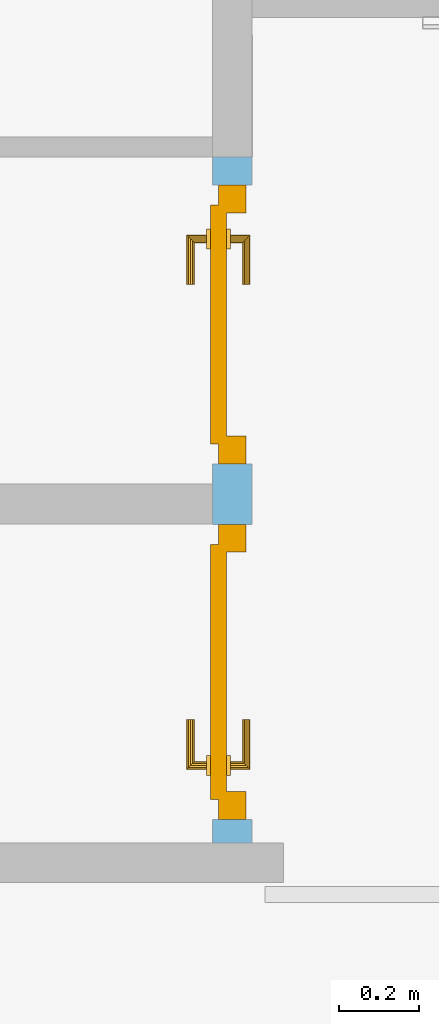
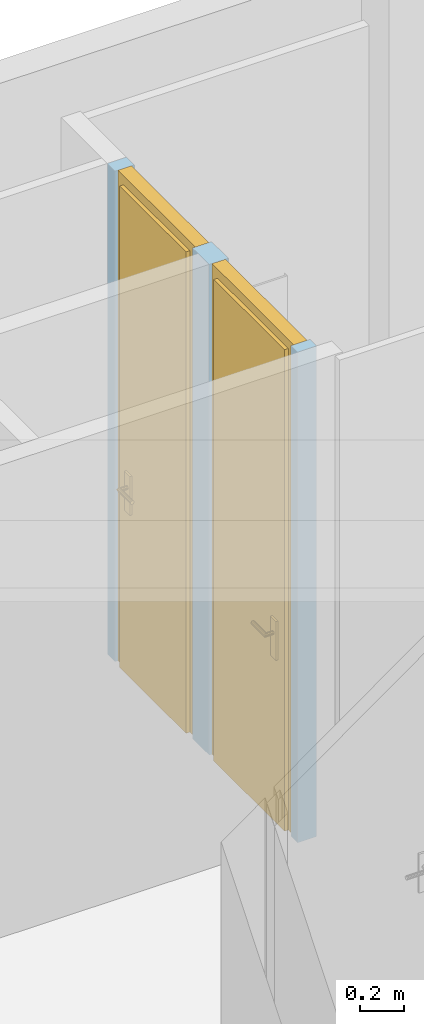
"""IFC4 building model written with IfcOpenShell, lengths in metres."""

from ifc_helpers import new_model, entity, si_unit, converted_unit, derived_unit, frame, origin, origin_with_axes, place, context, subcontext, project, spatial, polyline, outline, extrude, faceted_brep, source, transform, mapped, material, layer, layer_set, layer_usage, element, fill, save


model = new_model("IFC4")

# Units and contexts
model_context = context("Model", 3, precision=1e-05, world=origin())
body_context = subcontext(model_context, "Body", "Model", "MODEL_VIEW")
ifc_project = project(units=[si_unit("LENGTHUNIT", "METRE"), si_unit("AREAUNIT", "SQUARE_METRE"), si_unit("VOLUMEUNIT", "CUBIC_METRE"), si_unit("MASSUNIT", "GRAM", prefix="KILO"), converted_unit("PLANEANGLEUNIT", "DEGREE", entity("IfcPlaneAngleMeasure", 0.0174532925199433), si_unit("PLANEANGLEUNIT", "RADIAN"), dimensions=[0, 0, 0, 0, 0, 0, 0]), derived_unit("THERMALTRANSMITTANCEUNIT", [(si_unit("POWERUNIT", "WATT"), 1), (si_unit("THERMODYNAMICTEMPERATUREUNIT", "KELVIN"), -1), (si_unit("LENGTHUNIT", "METRE"), -2)]), derived_unit("VOLUMETRICFLOWRATEUNIT", [(si_unit("LENGTHUNIT", "METRE"), 3), (converted_unit("TIMEUNIT", "hour", entity("IfcTimeMeasure", 3600.0), si_unit("TIMEUNIT", "SECOND"), dimensions=[0, 0, 1, 0, 0, 0, 0]), -1), (si_unit("LENGTHUNIT", "METRE"), -1)])], contexts=[model_context])

# Building, storeys
building_placement = place(None, origin())
building = spatial("IfcBuilding", under=ifc_project, at=building_placement, Name="HABITATGE PLURIFAMILIAR", CompositionType="ELEMENT")
storey_1_placement = place(building_placement, frame((0.0, 0.0, 9.26)))
storey_1 = spatial("IfcBuildingStorey", under=building, at=storey_1_placement, Name="PLANTA SEGONA", CompositionType="ELEMENT", Elevation=9.26)
storey_2_placement = place(storey_1_placement, frame((0.0, 0.0, 6.25)))
storey_2 = spatial("IfcBuildingStorey", under=storey_1, at=storey_2_placement, Name="NOU", CompositionType="PARTIAL")

# Wall, openings, doors
ifc_material = material()
ifc_layer = layer(ifc_material, 0.1)
ifc_layer_set = layer_set([ifc_layer])
ifc_layer_usage = layer_usage(ifc_layer_set, "AXIS2", "POSITIVE", 0.0)
wall_placement = place(storey_2_placement, frame((408.986984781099, 25.9294598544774, -6.35), z_axis=(0.0, 0.0, 1.0), x_axis=(0.0, 1.0, 0.0)))
wall = element("IfcWall", 1, at=wall_placement, inside=storey_2, material=ifc_layer_usage, Name="Evans P2", context=body_context, shape_type="SweptSolid", body=[
    extrude(outline(polyline([(0.0, -0.1), (1.71999999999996, -0.1), (1.71999999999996, 0.0), (0.899999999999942, 0.0), (0.799999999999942, 0.0), (0.0, 0.0), (0.0, -0.1)])), frame((0.0, 0.1, 0.0), z_axis=(0.0, 0.0, 1.0), x_axis=(1.0, 0.0, 0.0)), (0.0, 0.0, 1.0), 2.71),
])
opening_1_placement = place(wall_placement, frame((1.65, 0.1, 0.0), z_axis=(0.0, -1.0, 0.0), x_axis=(0.0, 0.0, 1.0)))
opening_1 = element("IfcOpeningElement", 2, at=opening_1_placement, cuts=wall, Name="Vano puerta", ObjectType="Opening", context=body_context, shape_type="SweptSolid", body=[
    extrude(outline(polyline([(2.71, 0.700000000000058), (2.71, 0.0), (0.0, 0.0), (0.0, 0.700000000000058), (2.71, 0.700000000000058)])), origin_with_axes(), (0.0, 0.0, 1.0), 0.1),
])
opening_2_placement = place(wall_placement, frame((0.798973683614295, 0.1, 0.0), z_axis=(0.0, -1.0, 0.0), x_axis=(0.0, 0.0, 1.0)))
opening_2 = element("IfcOpeningElement", 3, at=opening_2_placement, cuts=wall, Name="Vano puerta", ObjectType="Opening", context=body_context, shape_type="SweptSolid", body=[
    extrude(outline(polyline([(2.71, 0.74), (2.71, 0.0), (0.0, 0.0), (0.0, 0.74), (2.71, 0.74)])), origin_with_axes(), (0.0, 0.0, 1.0), 0.1),
])
shared_shape_1 = source(origin_with_axes(), body_context, "Body", "Brep", [
    faceted_brep([(0.700000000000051, 0.0700000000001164, 2.71), (0.630000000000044, 0.0700000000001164, 2.71), (0.630000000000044, 0.0700000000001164, 0.0), (0.700000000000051, 0.0700000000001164, 0.0), (0.700000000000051, 0.0, 0.0), (0.630000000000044, 0.0, 0.0), (0.630000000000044, 0.0, 2.71), (0.700000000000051, 0.0, 2.71)], [[[0, 1, 2, 3]], [[4, 5, 6, 7]], [[3, 4, 7, 0]], [[2, 5, 4, 3]], [[1, 6, 5, 2]], [[0, 7, 6, 1]]], orient=[[False], [False], [False], [False], [False], [False]]),
    faceted_brep([(0.07, 0.0700000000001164, 2.71), (0.0, 0.0700000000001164, 2.71), (0.0, 0.0700000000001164, 0.0), (0.07, 0.0700000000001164, 0.0), (0.07, 0.0, 0.0), (0.0, 0.0, 0.0), (0.0, 0.0, 2.71), (0.07, 0.0, 2.71)], [[[0, 1, 2, 3]], [[4, 5, 6, 7]], [[3, 4, 7, 0]], [[2, 5, 4, 3]], [[1, 6, 5, 2]], [[0, 7, 6, 1]]], orient=[[False], [False], [False], [False], [False], [False]]),
    faceted_brep([(0.630000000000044, 0.0700000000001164, 2.71), (0.07, 0.0700000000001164, 2.71), (0.07, 0.0700000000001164, 2.64), (0.630000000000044, 0.0700000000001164, 2.64), (0.630000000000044, 0.0, 2.64), (0.07, 0.0, 2.64), (0.07, 0.0, 2.71), (0.630000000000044, 0.0, 2.71)], [[[0, 1, 2, 3]], [[4, 5, 6, 7]], [[3, 4, 7, 0]], [[2, 5, 4, 3]], [[1, 6, 5, 2]], [[0, 7, 6, 1]]], orient=[[False], [False], [False], [False], [False], [False]]),
    faceted_brep([(0.650000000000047, 0.0900000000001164, 2.66), (0.0499999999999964, 0.0900000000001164, 2.66), (0.0499999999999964, 0.0900000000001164, 0.0), (0.650000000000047, 0.0900000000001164, 0.0), (0.650000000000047, 0.0500000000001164, 0.0), (0.0499999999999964, 0.0500000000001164, 0.0), (0.0499999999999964, 0.0500000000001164, 2.66), (0.650000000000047, 0.0500000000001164, 2.66)], [[[0, 1, 2, 3]], [[4, 5, 6, 7]], [[3, 4, 7, 0]], [[2, 5, 4, 3]], [[1, 6, 5, 2]], [[0, 7, 6, 1]]], orient=[[False], [False], [False], [False], [False], [False]]),
    faceted_brep([(0.590000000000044, 0.0500000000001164, 1.125), (0.540000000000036, 0.0500000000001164, 1.125), (0.540000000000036, 0.0500000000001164, 0.91), (0.590000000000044, 0.0500000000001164, 0.91), (0.59000000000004, 0.0400000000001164, 0.91), (0.540000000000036, 0.0400000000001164, 0.91), (0.540000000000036, 0.0400000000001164, 1.125), (0.59000000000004, 0.0400000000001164, 1.125)], [[[0, 1, 2, 3]], [[4, 5, 6, 7]], [[3, 4, 7, 0]], [[2, 5, 4, 3]], [[1, 6, 5, 2]], [[0, 7, 6, 1]]], orient=[[False], [False], [False], [False], [False], [False]]),
    faceted_brep([(0.56500000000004, 0.0400000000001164, 1.06), (0.56000000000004, 0.0400000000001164, 1.05866025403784), (0.556339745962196, 0.0400000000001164, 1.055), (0.55500000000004, 0.0400000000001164, 1.05), (0.556339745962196, 0.0400000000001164, 1.045), (0.56000000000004, 0.0400000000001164, 1.04133974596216), (0.56500000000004, 0.0400000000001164, 1.04), (0.57000000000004, 0.0400000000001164, 1.04133974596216), (0.573660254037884, 0.0400000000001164, 1.045), (0.57500000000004, 0.0400000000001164, 1.05), (0.573660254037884, 0.0400000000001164, 1.055), (0.57000000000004, 0.0400000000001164, 1.05866025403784), (0.57000000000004, -0.00499999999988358, 1.05866025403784), (0.56500000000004, 0.0, 1.06), (0.573660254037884, -0.00866025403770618, 1.055), (0.57500000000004, -0.00999999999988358, 1.05), (0.573660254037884, -0.00866025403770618, 1.045), (0.57000000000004, -0.00499999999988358, 1.04133974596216), (0.56500000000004, 0.0, 1.04), (0.56000000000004, 0.00500000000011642, 1.04133974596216), (0.556339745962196, 0.00866025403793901, 1.045), (0.55500000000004, 0.0100000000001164, 1.05), (0.556339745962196, 0.00866025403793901, 1.055), (0.56000000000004, 0.00500000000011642, 1.05866025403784), (0.450000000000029, 0.0, 1.06), (0.450000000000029, -0.00499999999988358, 1.05866025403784), (0.450000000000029, -0.00866025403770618, 1.055), (0.450000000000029, -0.00999999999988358, 1.05), (0.450000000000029, -0.00866025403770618, 1.045), (0.450000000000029, -0.00499999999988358, 1.04133974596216), (0.450000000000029, 0.0, 1.04), (0.450000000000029, 0.00500000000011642, 1.04133974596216), (0.450000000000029, 0.00866025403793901, 1.045), (0.450000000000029, 0.0100000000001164, 1.05), (0.450000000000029, 0.00866025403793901, 1.055), (0.450000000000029, 0.00500000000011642, 1.05866025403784)], [[[0, 1, 2, 3, 4, 5, 6, 7, 8, 9, 10, 11]], [[0, 11, 12, 13]], [[11, 10, 14, 12]], [[10, 9, 15, 14]], [[9, 8, 16, 15]], [[8, 7, 17, 16]], [[7, 6, 18, 17]], [[6, 5, 19, 18]], [[5, 4, 20, 19]], [[4, 3, 21, 20]], [[3, 2, 22, 21]], [[2, 1, 23, 22]], [[1, 0, 13, 23]], [[24, 25, 26, 27, 28, 29, 30, 31, 32, 33, 34, 35]], [[13, 12, 25, 24]], [[12, 14, 26, 25]], [[14, 15, 27, 26]], [[15, 16, 28, 27]], [[16, 17, 29, 28]], [[17, 18, 30, 29]], [[18, 19, 31, 30]], [[19, 20, 32, 31]], [[20, 21, 33, 32]], [[21, 22, 34, 33]], [[22, 23, 35, 34]], [[23, 13, 24, 35]]], orient=[[False], [False], [False], [False], [False], [False], [False], [False], [False], [False], [False], [False], [False], [False], [False], [False], [False], [False], [False], [False], [False], [False], [False], [False], [False], [False]]),
    faceted_brep([(0.590000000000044, 0.0900000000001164, 1.125), (0.590000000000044, 0.0900000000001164, 0.91), (0.540000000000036, 0.0900000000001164, 0.91), (0.540000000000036, 0.0900000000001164, 1.125), (0.590000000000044, 0.100000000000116, 0.91), (0.590000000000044, 0.100000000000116, 1.125), (0.540000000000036, 0.100000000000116, 1.125), (0.540000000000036, 0.100000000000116, 0.91)], [[[0, 1, 2, 3]], [[4, 5, 6, 7]], [[1, 0, 5, 4]], [[2, 1, 4, 7]], [[3, 2, 7, 6]], [[0, 3, 6, 5]]], orient=[[False], [False], [False], [False], [False], [False]]),
    faceted_brep([(0.56500000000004, 0.100000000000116, 1.06), (0.57000000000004, 0.100000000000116, 1.05866025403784), (0.573660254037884, 0.100000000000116, 1.055), (0.57500000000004, 0.100000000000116, 1.05), (0.573660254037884, 0.100000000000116, 1.045), (0.57000000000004, 0.100000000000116, 1.04133974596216), (0.56500000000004, 0.100000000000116, 1.04), (0.56000000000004, 0.100000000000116, 1.04133974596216), (0.556339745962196, 0.100000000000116, 1.045), (0.55500000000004, 0.100000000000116, 1.05), (0.556339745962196, 0.100000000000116, 1.055), (0.56000000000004, 0.100000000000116, 1.05866025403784), (0.56500000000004, 0.140000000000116, 1.06), (0.57000000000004, 0.145000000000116, 1.05866025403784), (0.573660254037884, 0.148660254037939, 1.055), (0.57500000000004, 0.150000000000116, 1.05), (0.573660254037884, 0.148660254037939, 1.045), (0.57000000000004, 0.145000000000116, 1.04133974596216), (0.56500000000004, 0.140000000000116, 1.04), (0.56000000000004, 0.135000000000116, 1.04133974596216), (0.556339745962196, 0.131339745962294, 1.045), (0.55500000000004, 0.130000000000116, 1.05), (0.556339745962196, 0.131339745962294, 1.055), (0.56000000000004, 0.135000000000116, 1.05866025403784), (0.450000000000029, 0.140000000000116, 1.06), (0.450000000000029, 0.135000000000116, 1.05866025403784), (0.450000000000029, 0.131339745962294, 1.055), (0.450000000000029, 0.130000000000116, 1.05), (0.450000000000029, 0.131339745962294, 1.045), (0.450000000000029, 0.135000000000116, 1.04133974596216), (0.450000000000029, 0.140000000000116, 1.04), (0.450000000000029, 0.145000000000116, 1.04133974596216), (0.450000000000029, 0.148660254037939, 1.045), (0.450000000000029, 0.150000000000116, 1.05), (0.450000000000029, 0.148660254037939, 1.055), (0.450000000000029, 0.145000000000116, 1.05866025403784)], [[[0, 1, 2, 3, 4, 5, 6, 7, 8, 9, 10, 11]], [[0, 12, 13, 1]], [[1, 13, 14, 2]], [[2, 14, 15, 3]], [[3, 15, 16, 4]], [[4, 16, 17, 5]], [[5, 17, 18, 6]], [[6, 18, 19, 7]], [[7, 19, 20, 8]], [[8, 20, 21, 9]], [[9, 21, 22, 10]], [[10, 22, 23, 11]], [[11, 23, 12, 0]], [[24, 25, 26, 27, 28, 29, 30, 31, 32, 33, 34, 35]], [[12, 24, 35, 13]], [[13, 35, 34, 14]], [[14, 34, 33, 15]], [[15, 33, 32, 16]], [[16, 32, 31, 17]], [[17, 31, 30, 18]], [[18, 30, 29, 19]], [[19, 29, 28, 20]], [[20, 28, 27, 21]], [[21, 27, 26, 22]], [[22, 26, 25, 23]], [[23, 25, 24, 12]]], orient=[[False], [False], [False], [False], [False], [False], [False], [False], [False], [False], [False], [False], [False], [False], [False], [False], [False], [False], [False], [False], [False], [False], [False], [False], [False], [False]]),
])
door_1_placement = place(opening_1_placement, frame((0.0, 0.700000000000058, 0.085), z_axis=(1.0, 0.0, 0.0), x_axis=(0.0, -1.0, 0.0)))
door_1 = element("IfcDoor", 4, at=door_1_placement, inside=storey_2, Name="Porta P2", OperationType="USERDEFINED", OverallHeight=2.71, OverallWidth=0.7, PredefinedType="DOOR", context=body_context, shape_type="MappedRepresentation", body=[
    mapped(shared_shape_1, transform((0.0, 0.0, 0.0), x_axis=(1.0, 0.0, 0.0), y_axis=(0.0, 1.0, 0.0), z_axis=(0.0, 0.0, 1.0), scale=1.0)),
])
fill(opening_1, door_1)
shared_shape_2 = source(origin_with_axes(), body_context, "Body", "Brep", [
    faceted_brep([(0.0, 0.0700000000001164, 2.71), (0.0, 0.0700000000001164, 0.0), (0.0699999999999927, 0.0700000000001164, 0.0), (0.0699999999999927, 0.0700000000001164, 2.71), (0.0, 0.0, 0.0), (0.0, 0.0, 2.71), (0.0699999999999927, 0.0, 2.71), (0.0699999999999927, 0.0, 0.0)], [[[0, 1, 2, 3]], [[4, 5, 6, 7]], [[1, 0, 5, 4]], [[2, 1, 4, 7]], [[3, 2, 7, 6]], [[0, 3, 6, 5]]], orient=[[False], [False], [False], [False], [False], [False]]),
    faceted_brep([(0.669999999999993, 0.0700000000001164, 2.71), (0.669999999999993, 0.0700000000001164, 0.0), (0.739999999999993, 0.0700000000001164, 0.0), (0.739999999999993, 0.0700000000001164, 2.71), (0.669999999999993, 0.0, 0.0), (0.669999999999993, 0.0, 2.71), (0.739999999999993, 0.0, 2.71), (0.739999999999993, 0.0, 0.0)], [[[0, 1, 2, 3]], [[4, 5, 6, 7]], [[1, 0, 5, 4]], [[2, 1, 4, 7]], [[3, 2, 7, 6]], [[0, 3, 6, 5]]], orient=[[False], [False], [False], [False], [False], [False]]),
    faceted_brep([(0.0699999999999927, 0.0700000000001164, 2.71), (0.0699999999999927, 0.0700000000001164, 2.64), (0.669999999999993, 0.0700000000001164, 2.64), (0.669999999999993, 0.0700000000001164, 2.71), (0.0699999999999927, 0.0, 2.64), (0.0699999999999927, 0.0, 2.71), (0.669999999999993, 0.0, 2.71), (0.669999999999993, 0.0, 2.64)], [[[0, 1, 2, 3]], [[4, 5, 6, 7]], [[1, 0, 5, 4]], [[2, 1, 4, 7]], [[3, 2, 7, 6]], [[0, 3, 6, 5]]], orient=[[False], [False], [False], [False], [False], [False]]),
    faceted_brep([(0.0499999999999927, 0.0900000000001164, 2.66), (0.0499999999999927, 0.0900000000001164, 0.0), (0.689999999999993, 0.0900000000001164, 0.0), (0.689999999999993, 0.0900000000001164, 2.66), (0.0499999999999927, 0.0500000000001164, 0.0), (0.0499999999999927, 0.0500000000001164, 2.66), (0.689999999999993, 0.0500000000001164, 2.66), (0.689999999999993, 0.0500000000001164, 0.0)], [[[0, 1, 2, 3]], [[4, 5, 6, 7]], [[1, 0, 5, 4]], [[2, 1, 4, 7]], [[3, 2, 7, 6]], [[0, 3, 6, 5]]], orient=[[False], [False], [False], [False], [False], [False]]),
    faceted_brep([(0.109999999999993, 0.0500000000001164, 1.125), (0.109999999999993, 0.0500000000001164, 0.91), (0.159999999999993, 0.0500000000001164, 0.91), (0.159999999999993, 0.0500000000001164, 1.125), (0.109999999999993, 0.0400000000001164, 0.91), (0.109999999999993, 0.0400000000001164, 1.125), (0.159999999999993, 0.0400000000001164, 1.125), (0.159999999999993, 0.0400000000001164, 0.91)], [[[0, 1, 2, 3]], [[4, 5, 6, 7]], [[1, 0, 5, 4]], [[2, 1, 4, 7]], [[3, 2, 7, 6]], [[0, 3, 6, 5]]], orient=[[False], [False], [False], [False], [False], [False]]),
    faceted_brep([(0.134999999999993, 0.0400000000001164, 1.06), (0.129999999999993, 0.0400000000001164, 1.05866025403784), (0.126339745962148, 0.0400000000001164, 1.055), (0.124999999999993, 0.0400000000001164, 1.05), (0.126339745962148, 0.0400000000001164, 1.045), (0.129999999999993, 0.0400000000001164, 1.04133974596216), (0.134999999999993, 0.0400000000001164, 1.04), (0.139999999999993, 0.0400000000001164, 1.04133974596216), (0.143660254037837, 0.0400000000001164, 1.045), (0.144999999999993, 0.0400000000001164, 1.05), (0.143660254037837, 0.0400000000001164, 1.055), (0.139999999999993, 0.0400000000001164, 1.05866025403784), (0.134999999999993, 0.0, 1.06), (0.129999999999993, -0.00499999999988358, 1.05866025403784), (0.126339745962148, -0.00866025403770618, 1.055), (0.124999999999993, -0.00999999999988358, 1.05), (0.126339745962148, -0.00866025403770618, 1.045), (0.129999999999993, -0.00499999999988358, 1.04133974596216), (0.134999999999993, 0.0, 1.04), (0.139999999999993, 0.00500000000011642, 1.04133974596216), (0.143660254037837, 0.00866025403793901, 1.045), (0.144999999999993, 0.0100000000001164, 1.05), (0.143660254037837, 0.00866025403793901, 1.055), (0.139999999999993, 0.00500000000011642, 1.05866025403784), (0.249999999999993, 0.0, 1.06), (0.249999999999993, 0.00500000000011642, 1.05866025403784), (0.249999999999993, 0.00866025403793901, 1.055), (0.249999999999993, 0.0100000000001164, 1.05), (0.249999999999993, 0.00866025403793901, 1.045), (0.249999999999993, 0.00500000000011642, 1.04133974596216), (0.249999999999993, 0.0, 1.04), (0.249999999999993, -0.00499999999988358, 1.04133974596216), (0.249999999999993, -0.00866025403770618, 1.045), (0.249999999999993, -0.00999999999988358, 1.05), (0.249999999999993, -0.00866025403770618, 1.055), (0.249999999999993, -0.00499999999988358, 1.05866025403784)], [[[0, 1, 2, 3, 4, 5, 6, 7, 8, 9, 10, 11]], [[0, 12, 13, 1]], [[1, 13, 14, 2]], [[2, 14, 15, 3]], [[3, 15, 16, 4]], [[4, 16, 17, 5]], [[5, 17, 18, 6]], [[6, 18, 19, 7]], [[7, 19, 20, 8]], [[8, 20, 21, 9]], [[9, 21, 22, 10]], [[10, 22, 23, 11]], [[11, 23, 12, 0]], [[24, 25, 26, 27, 28, 29, 30, 31, 32, 33, 34, 35]], [[12, 24, 35, 13]], [[13, 35, 34, 14]], [[14, 34, 33, 15]], [[15, 33, 32, 16]], [[16, 32, 31, 17]], [[17, 31, 30, 18]], [[18, 30, 29, 19]], [[19, 29, 28, 20]], [[20, 28, 27, 21]], [[21, 27, 26, 22]], [[22, 26, 25, 23]], [[23, 25, 24, 12]]], orient=[[False], [False], [False], [False], [False], [False], [False], [False], [False], [False], [False], [False], [False], [False], [False], [False], [False], [False], [False], [False], [False], [False], [False], [False], [False], [False]]),
    faceted_brep([(0.109999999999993, 0.0900000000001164, 1.125), (0.159999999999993, 0.0900000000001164, 1.125), (0.159999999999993, 0.0900000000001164, 0.91), (0.109999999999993, 0.0900000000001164, 0.91), (0.109999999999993, 0.100000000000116, 0.91), (0.159999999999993, 0.100000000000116, 0.91), (0.159999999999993, 0.100000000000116, 1.125), (0.109999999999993, 0.100000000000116, 1.125)], [[[0, 1, 2, 3]], [[4, 5, 6, 7]], [[3, 4, 7, 0]], [[2, 5, 4, 3]], [[1, 6, 5, 2]], [[0, 7, 6, 1]]], orient=[[False], [False], [False], [False], [False], [False]]),
    faceted_brep([(0.134999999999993, 0.100000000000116, 1.06), (0.139999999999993, 0.100000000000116, 1.05866025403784), (0.143660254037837, 0.100000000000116, 1.055), (0.144999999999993, 0.100000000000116, 1.05), (0.143660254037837, 0.100000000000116, 1.045), (0.139999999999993, 0.100000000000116, 1.04133974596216), (0.134999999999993, 0.100000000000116, 1.04), (0.129999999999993, 0.100000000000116, 1.04133974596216), (0.126339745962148, 0.100000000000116, 1.045), (0.124999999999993, 0.100000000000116, 1.05), (0.126339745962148, 0.100000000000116, 1.055), (0.129999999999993, 0.100000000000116, 1.05866025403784), (0.129999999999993, 0.145000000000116, 1.05866025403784), (0.134999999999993, 0.140000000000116, 1.06), (0.126339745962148, 0.148660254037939, 1.055), (0.124999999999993, 0.150000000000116, 1.05), (0.126339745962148, 0.148660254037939, 1.045), (0.129999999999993, 0.145000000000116, 1.04133974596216), (0.134999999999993, 0.140000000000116, 1.04), (0.139999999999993, 0.135000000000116, 1.04133974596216), (0.143660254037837, 0.131339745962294, 1.045), (0.144999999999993, 0.130000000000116, 1.05), (0.143660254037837, 0.131339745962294, 1.055), (0.139999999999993, 0.135000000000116, 1.05866025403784), (0.249999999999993, 0.140000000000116, 1.06), (0.249999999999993, 0.145000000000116, 1.05866025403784), (0.249999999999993, 0.148660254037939, 1.055), (0.249999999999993, 0.150000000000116, 1.05), (0.249999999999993, 0.148660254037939, 1.045), (0.249999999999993, 0.145000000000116, 1.04133974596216), (0.249999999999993, 0.140000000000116, 1.04), (0.249999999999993, 0.135000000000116, 1.04133974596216), (0.249999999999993, 0.131339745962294, 1.045), (0.249999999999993, 0.130000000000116, 1.05), (0.249999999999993, 0.131339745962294, 1.055), (0.249999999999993, 0.135000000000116, 1.05866025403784)], [[[0, 1, 2, 3, 4, 5, 6, 7, 8, 9, 10, 11]], [[0, 11, 12, 13]], [[11, 10, 14, 12]], [[10, 9, 15, 14]], [[9, 8, 16, 15]], [[8, 7, 17, 16]], [[7, 6, 18, 17]], [[6, 5, 19, 18]], [[5, 4, 20, 19]], [[4, 3, 21, 20]], [[3, 2, 22, 21]], [[2, 1, 23, 22]], [[1, 0, 13, 23]], [[24, 25, 26, 27, 28, 29, 30, 31, 32, 33, 34, 35]], [[13, 12, 25, 24]], [[12, 14, 26, 25]], [[14, 15, 27, 26]], [[15, 16, 28, 27]], [[16, 17, 29, 28]], [[17, 18, 30, 29]], [[18, 19, 31, 30]], [[19, 20, 32, 31]], [[20, 21, 33, 32]], [[21, 22, 34, 33]], [[22, 23, 35, 34]], [[23, 13, 24, 35]]], orient=[[False], [False], [False], [False], [False], [False], [False], [False], [False], [False], [False], [False], [False], [False], [False], [False], [False], [False], [False], [False], [False], [False], [False], [False], [False], [False]]),
])
door_2_placement = place(opening_2_placement, frame((0.0, 0.74, 0.085), z_axis=(1.0, 0.0, 0.0), x_axis=(0.0, -1.0, 0.0)))
door_2 = element("IfcDoor", 5, at=door_2_placement, inside=storey_2, Name="Porta P2", OperationType="USERDEFINED", OverallHeight=2.71, OverallWidth=0.74, PredefinedType="DOOR", context=body_context, shape_type="MappedRepresentation", body=[
    mapped(shared_shape_2, transform((0.0, 0.0, 0.0), x_axis=(1.0, 0.0, 0.0), y_axis=(0.0, 1.0, 0.0), z_axis=(0.0, 0.0, 1.0), scale=1.0)),
])
fill(opening_2, door_2)

save(model, "model.ifc")
